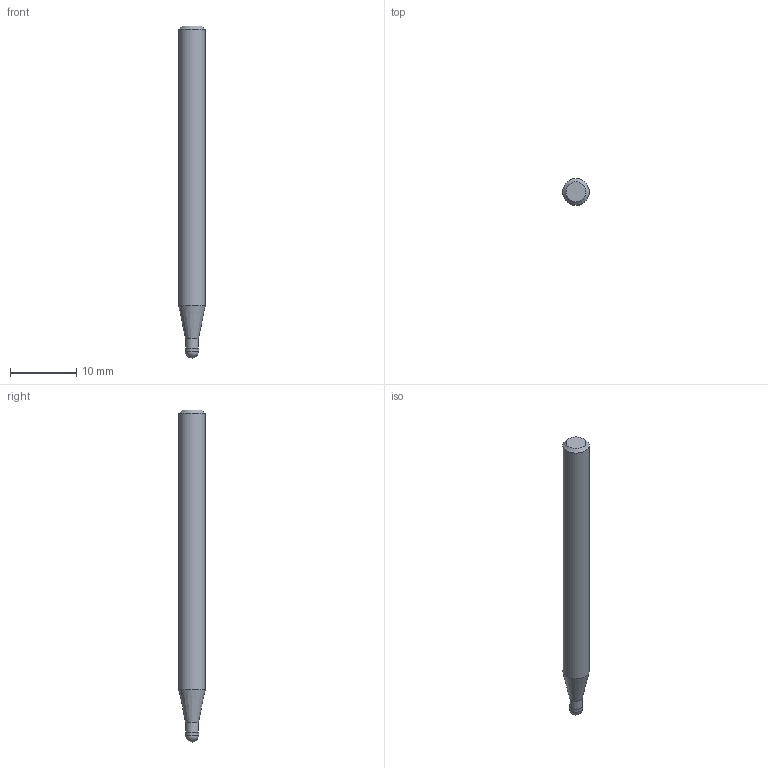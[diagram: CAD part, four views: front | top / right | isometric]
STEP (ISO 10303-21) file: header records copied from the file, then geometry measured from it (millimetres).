
FILE_DESCRIPTION((''),'2;1');
FILE_NAME('C:\Users\nsx150\AppData\Local\Temp\Mastercam 2021\ZXBT0ST9RL\TEMP.step','2021-06-25T11:03:06',(''),(''),'STEP Write','Mastercam 2021 ... CNC Software, Inc.','');
FILE_SCHEMA(('AUTOMOTIVE_DESIGN'));
Length unit declared in the file: millimetre
Products named in the file (1): None
Bounding box: 4 x 4 x 50 mm (x, y, z)
Volume: 571.3 mm3; surface area: 609.2 mm2
Topology: 2 solids, 2 shells, 9 faces, 14 edges, 8 vertices
Faces by surface type: plane 3, cylinder 3, cone 2, sphere 1
Full cylindrical faces by diameter (mm): 1.94 x1, 2 x1, 4 x1
Entity records: 211 total; most frequent: DIRECTION 36, CARTESIAN_POINT 25, AXIS2_PLACEMENT_3D 18, ORIENTED_EDGE 14, EDGE_LOOP 14, STYLED_ITEM 12, ADVANCED_FACE 9, FACE_BOUND 8
